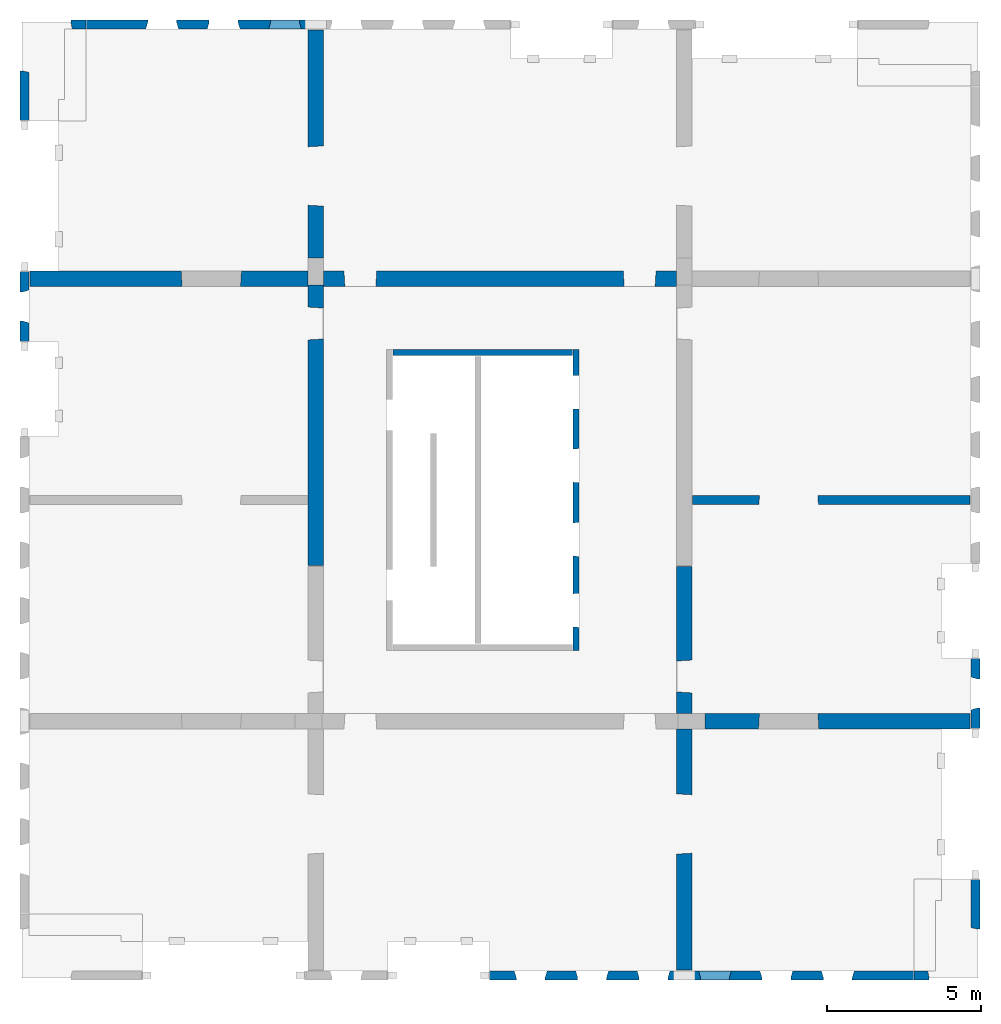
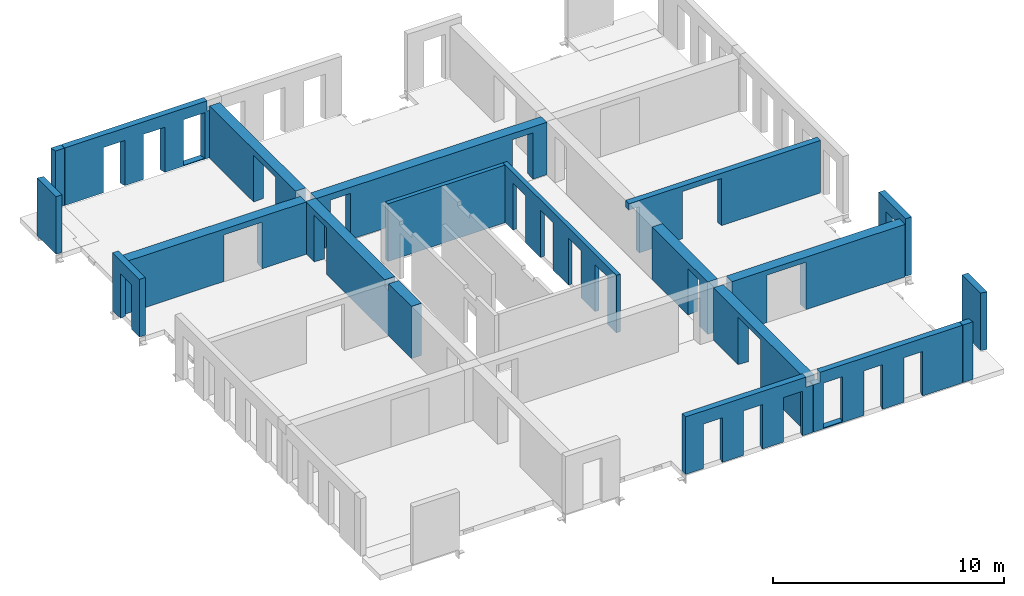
# One storey, part 3 of 4: 19 walls, 33 openings.
"""IFC2X3 building model written with IfcOpenShell, lengths in millimetres."""

from ifc_helpers import new_model, entity, si_unit, converted_unit, derived_unit, direction, frame, frame_2d, origin, origin_2d_with_axis, place, context, subcontext, project, spatial, rectangle, extrude, faceted_brep, material, layer, layer_set, layer_usage, type_object, element, save


model = new_model("IFC2X3")

# Units and contexts
model_context = context("Model", 3, precision=0.01, world=origin(), true_north=direction((6.12303176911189e-17, 1.0)))
body_context = subcontext(model_context, "Body", "Model", "MODEL_VIEW")
ifc_project = project(units=[si_unit("LENGTHUNIT", "METRE", prefix="MILLI"), si_unit("AREAUNIT", "SQUARE_METRE"), si_unit("VOLUMEUNIT", "CUBIC_METRE"), converted_unit("PLANEANGLEUNIT", "DEGREE", entity("IfcRatioMeasure", 0.0174532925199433), si_unit("PLANEANGLEUNIT", "RADIAN"), dimensions=[0, 0, 0, 0, 0, 0, 0]), si_unit("MASSUNIT", "GRAM", prefix="KILO"), derived_unit("MASSDENSITYUNIT", [(si_unit("MASSUNIT", "GRAM", prefix="KILO"), 1), (si_unit("LENGTHUNIT", "METRE"), -3)]), si_unit("TIMEUNIT", "SECOND"), si_unit("FREQUENCYUNIT", "HERTZ"), si_unit("THERMODYNAMICTEMPERATUREUNIT", "DEGREE_CELSIUS"), derived_unit("THERMALTRANSMITTANCEUNIT", [(si_unit("MASSUNIT", "GRAM", prefix="KILO"), 1), (si_unit("THERMODYNAMICTEMPERATUREUNIT", "KELVIN"), -1), (si_unit("TIMEUNIT", "SECOND"), -3)]), derived_unit("VOLUMETRICFLOWRATEUNIT", [(si_unit("LENGTHUNIT", "METRE"), 3), (si_unit("TIMEUNIT", "SECOND"), -1)]), si_unit("ELECTRICCURRENTUNIT", "AMPERE"), si_unit("ELECTRICVOLTAGEUNIT", "VOLT"), si_unit("POWERUNIT", "WATT"), si_unit("FORCEUNIT", "NEWTON", prefix="KILO"), si_unit("ILLUMINANCEUNIT", "LUX"), si_unit("LUMINOUSFLUXUNIT", "LUMEN"), si_unit("LUMINOUSINTENSITYUNIT", "CANDELA"), derived_unit("USERDEFINED", [(si_unit("MASSUNIT", "GRAM", prefix="KILO"), -1), (si_unit("LENGTHUNIT", "METRE"), -2), (si_unit("TIMEUNIT", "SECOND"), 3), (si_unit("LUMINOUSFLUXUNIT", "LUMEN"), 1)]), derived_unit("LINEARVELOCITYUNIT", [(si_unit("LENGTHUNIT", "METRE"), 1), (si_unit("TIMEUNIT", "SECOND"), -1)]), si_unit("PRESSUREUNIT", "PASCAL"), derived_unit("USERDEFINED", [(si_unit("LENGTHUNIT", "METRE"), -2), (si_unit("MASSUNIT", "GRAM", prefix="KILO"), 1), (si_unit("TIMEUNIT", "SECOND"), -2)])], contexts=[model_context])

# Site, building, storey
site_placement = place(None, origin())
site = spatial("IfcSite", under=ifc_project, at=site_placement, Name="Default", CompositionType="ELEMENT")
building_placement = place(site_placement, origin())
building = spatial("IfcBuilding", under=site, at=building_placement, Name="niet gebruiken", CompositionType="ELEMENT")
storey_placement = place(building_placement, frame((0.0, 0.0, 54720.0)))
storey = spatial("IfcBuildingStorey", under=building, at=storey_placement, Name="17 zeventiende verdieping", CompositionType="ELEMENT", Elevation=54720.0)

# Wall, openings
ifc_material = material(Name="NLRS_f2_beton prefab")
ifc_layer_1 = layer(ifc_material, 200.0)
ifc_layer_set_1 = layer_set([ifc_layer_1], Name="Basic Wall:NLRS_22.21_WA_beton prefab d=200_gen")
ifc_layer_usage_1 = layer_usage(ifc_layer_set_1, "AXIS2", "NEGATIVE", 100.0)
wall_type_1 = type_object("IfcWallType", Name="Basic Wall:NLRS_22.21_WA_beton prefab d=200_gen", PredefinedType="STANDARD", material=ifc_layer_set_1)
wall_1_placement = place(storey_placement, frame((144230.0, 22400.0, -50.0), z_axis=(0.0, 0.0, 1.0), x_axis=(0.0, -1.0, 0.0)))
wall_1 = element("IfcWallStandardCase", 1, at=wall_1_placement, inside=storey, type_object=wall_type_1, material=ifc_layer_usage_1, Name="Basic Wall:NLRS_22.21_WA_beton prefab d=200_gen", ObjectType="Basic Wall:NLRS_22.21_WA_beton prefab d=200_gen", context=body_context, shape_type="SweptSolid", body=[
    extrude(rectangle(XDim=9800.0, YDim=199.999999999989, at=frame_2d((4900.0, -3.69482222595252e-13), x_axis=(-1.0, 0.0))), origin(), (0.0, 0.0, 1.0), 3040.0),
])
opening_1_placement = place(wall_1_placement, frame((9047.0, -100.0, 0.0)))
element("IfcOpeningElement", 2, at=opening_1_placement, cuts=wall_1, Name="Basic Wall:NLRS_22.21_WA_beton prefab d=200_gen", ObjectType="Opening", context=body_context, shape_type="Brep", body=[
    faceted_brep([(-1104.0, 200.0, 2502.0), (-1104.0, 200.0, 0.0), (-1092.0, 0.0, 0.0), (-1092.0, 0.0, 2490.0), (0.0, 200.0, 0.0), (-12.0, 0.0, 0.0), (-12.0, 0.0, 2490.0), (0.0, 200.0, 2502.0)], [[[0, 1, 2, 3]], [[1, 4, 5, 2]], [[6, 3, 2, 5]], [[7, 4, 1, 0]], [[7, 0, 3, 6]], [[4, 7, 6, 5]]]),
])
opening_2_placement = place(wall_1_placement, frame((6737.0, -100.0, 0.0)))
element("IfcOpeningElement", 3, at=opening_2_placement, cuts=wall_1, Name="Basic Wall:NLRS_22.21_WA_beton prefab d=200_gen", ObjectType="Opening", context=body_context, shape_type="Brep", body=[
    faceted_brep([(-1104.0, 200.0, 2502.0), (-1104.0, 200.0, 0.0), (-1092.0, 0.0, 0.0), (-1092.0, 0.0, 2490.0), (0.0, 200.0, 0.0), (-12.0, 0.0, 0.0), (-12.0, 0.0, 2490.0), (0.0, 200.0, 2502.0)], [[[0, 1, 2, 3]], [[1, 4, 5, 2]], [[6, 3, 2, 5]], [[7, 4, 1, 0]], [[7, 0, 3, 6]], [[4, 7, 6, 5]]]),
])
opening_3_placement = place(wall_1_placement, frame((4332.0, -100.0, 0.0)))
element("IfcOpeningElement", 4, at=opening_3_placement, cuts=wall_1, Name="Basic Wall:NLRS_22.21_WA_beton prefab d=200_gen", ObjectType="Opening", context=body_context, shape_type="Brep", body=[
    faceted_brep([(-1104.0, 200.0, 2502.0), (-1104.0, 200.0, 0.0), (-1092.0, 0.0, 0.0), (-1092.0, 0.0, 2490.0), (0.0, 200.0, 0.0), (-12.0, 0.0, 0.0), (-12.0, 0.0, 2490.0), (0.0, 200.0, 2502.0)], [[[0, 1, 2, 3]], [[1, 4, 5, 2]], [[6, 3, 2, 5]], [[7, 4, 1, 0]], [[7, 0, 3, 6]], [[4, 7, 6, 5]]]),
])
opening_4_placement = place(wall_1_placement, frame((1942.0, -100.0, 0.0)))
element("IfcOpeningElement", 5, at=opening_4_placement, cuts=wall_1, Name="Basic Wall:NLRS_22.21_WA_beton prefab d=200_gen", ObjectType="Opening", context=body_context, shape_type="Brep", body=[
    faceted_brep([(-1104.0, 200.0, 2502.0), (-1104.0, 200.0, 0.0), (-1092.0, 0.0, 0.0), (-1092.0, 0.0, 2490.0), (0.0, 200.0, 0.0), (-12.0, 0.0, 0.0), (-12.0, 0.0, 2490.0), (0.0, 200.0, 2502.0)], [[[0, 1, 2, 3]], [[1, 4, 5, 2]], [[6, 3, 2, 5]], [[7, 4, 1, 0]], [[7, 0, 3, 6]], [[4, 7, 6, 5]]]),
])

# Wall
ifc_layer_usage_2 = layer_usage(ifc_layer_set_1, "AXIS2", "NEGATIVE", 100.0)
wall_2_placement = place(storey_placement, frame((138270.0, 22300.0, -50.0)))
element("IfcWallStandardCase", 6, at=wall_2_placement, inside=storey, type_object=wall_type_1, material=ifc_layer_usage_2, Name="Basic Wall:NLRS_22.21_WA_beton prefab d=200_gen", ObjectType="Basic Wall:NLRS_22.21_WA_beton prefab d=200_gen", context=body_context, shape_type="SweptSolid", body=[
    extrude(rectangle(XDim=5839.99999999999, YDim=199.999999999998, at=frame_2d((2919.99999999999, -7.60280727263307e-13), x_axis=(-1.0, 0.0))), origin(), (0.0, 0.0, 1.0), 3040.0),
])

# Wall, openings
ifc_layer_2 = layer(ifc_material, 300.0)
ifc_layer_set_2 = layer_set([ifc_layer_2], Name="Basic Wall:NLRS_22.21_WA_beton prefab d=300_gen")
ifc_layer_usage_3 = layer_usage(ifc_layer_set_2, "AXIS2", "NEGATIVE", 150.0)
wall_type_2 = type_object("IfcWallType", Name="Basic Wall:NLRS_22.21_WA_beton prefab d=300_gen", PredefinedType="STANDARD", material=ifc_layer_set_2)
wall_3_placement = place(storey_placement, frame((157060.0, 17500.0, -70.0), z_axis=(0.0, 0.0, 1.0), x_axis=(-1.0, 0.0, 0.0)))
wall_3 = element("IfcWallStandardCase", 7, at=wall_3_placement, inside=storey, type_object=wall_type_2, material=ifc_layer_usage_3, Name="Basic Wall:NLRS_22.21_WA_beton prefab d=300_gen", ObjectType="Basic Wall:NLRS_22.21_WA_beton prefab d=300_gen", context=body_context, shape_type="SweptSolid", body=[
    extrude(rectangle(XDim=9559.9999999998, YDim=300.000000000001, at=frame_2d((4779.9999999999, -7.53175299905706e-13), x_axis=(-1.0, 0.0))), origin(), (0.0, 0.0, 1.0), 2769.99999999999),
])
opening_5_placement = place(wall_3_placement, frame((6878.0, 150.0, 0.0)))
element("IfcOpeningElement", 8, at=opening_5_placement, cuts=wall_3, Name="Basic Wall:NLRS_22.21_WA_beton prefab d=300_gen", ObjectType="Opening", context=body_context, shape_type="Brep", body=[
    faceted_brep([(-18.0, -300.0, 2470.0), (-1918.0, -300.0, 2470.0), (-1918.0, -300.0, 0.0), (-18.0, -300.0, 0.0), (0.0, 0.0, 2488.0), (0.0, 0.0, 0.0), (-1936.0, 0.0, 0.0), (-1936.0, 0.0, 2488.0)], [[[0, 1, 2, 3]], [[4, 5, 6, 7]], [[4, 7, 1, 0]], [[7, 6, 2, 1]], [[6, 5, 3, 2]], [[5, 4, 0, 3]]]),
])
opening_6_placement = place(wall_3_placement, origin())
element("IfcOpeningElement", 9, at=opening_6_placement, cuts=wall_3, Name="Basic Wall:NLRS_22.21_WA_beton prefab d=300_gen", ObjectType="Opening", context=body_context, shape_type="SweptSolid", body=[
    extrude(rectangle(XDim=2439.99999999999, YDim=520.000000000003, at=frame_2d((8.64019966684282e-12, 4.32009983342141e-12), x_axis=(0.0, 1.0))), frame((9300.0, 150.0, 1220.0), z_axis=(0.0, -1.0, 0.0), x_axis=(1.0, 0.0, 0.0)), (0.0, 0.0, 1.0), 300.0),
])

ifc_layer_3 = layer(ifc_material, 500.0)
ifc_layer_set_3 = layer_set([ifc_layer_3], Name="Basic Wall:NLRS_22.21_WA_beton prefab d=500_gen")
ifc_layer_usage_4 = layer_usage(ifc_layer_set_3, "AXIS2", "NEGATIVE", 250.0)
wall_type_3 = type_object("IfcWallType", Name="Basic Wall:NLRS_22.21_WA_beton prefab d=500_gen", PredefinedType="STANDARD", material=ifc_layer_set_3)
wall_4_placement = place(storey_placement, frame((136000.003540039, 24700.0, -60.0)))
wall_4 = element("IfcWallStandardCase", 10, at=wall_4_placement, inside=storey, type_object=wall_type_3, material=ifc_layer_usage_4, Name="Basic Wall:NLRS_22.21_WA_beton prefab d=500_gen", ObjectType="Basic Wall:NLRS_22.21_WA_beton prefab d=500_gen", context=body_context, shape_type="SweptSolid", body=[
    extrude(rectangle(XDim=11499.9964599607, YDim=499.999999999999, at=frame_2d((5749.99822998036, 0.0), x_axis=(-1.0, 0.0))), origin(), (0.0, 0.0, 1.0), 2760.00000000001),
])
opening_7_placement = place(wall_4_placement, frame((669.996459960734, -250.0, -10.0)))
element("IfcOpeningElement", 11, at=opening_7_placement, cuts=wall_4, Name="Basic Wall:NLRS_22.21_WA_beton prefab d=500_gen", ObjectType="Opening", context=body_context, shape_type="Brep", body=[
    faceted_brep([(1066.0, 500.0, 2478.0), (1036.0, 0.0, 2448.0), (1036.0, 0.0, 0.0), (1066.0, 500.0, 0.0), (30.0, 0.0, 0.0), (0.0, 500.0, 0.0), (30.0, 0.0, 2448.0), (0.0, 500.0, 2478.0)], [[[0, 1, 2, 3]], [[3, 2, 4, 5]], [[6, 4, 2, 1]], [[7, 0, 3, 5]], [[7, 6, 1, 0]], [[5, 4, 6, 7]]]),
])
opening_8_placement = place(wall_4_placement, frame((9763.99645996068, -250.0, -10.0)))
element("IfcOpeningElement", 12, at=opening_8_placement, cuts=wall_4, Name="Basic Wall:NLRS_22.21_WA_beton prefab d=500_gen", ObjectType="Opening", context=body_context, shape_type="Brep", body=[
    faceted_brep([(30.0, 0.0, 2448.0), (30.0, 0.0, 0.0), (1036.0, 0.0, 0.0), (1036.0, 0.0, 2448.0), (0.0, 500.0, 2478.0), (1066.0, 500.0, 2478.0), (1066.0, 500.0, 0.0), (0.0, 500.0, 0.0)], [[[0, 1, 2, 3]], [[4, 5, 6, 7]], [[4, 0, 3, 5]], [[5, 3, 2, 6]], [[6, 2, 1, 7]], [[7, 1, 0, 4]]]),
])

# Wall, opening
ifc_layer_usage_5 = layer_usage(ifc_layer_set_3, "AXIS2", "NEGATIVE", 250.0)
wall_5_placement = place(storey_placement, frame((147750.0, 10050.0, -70.0), z_axis=(0.0, 0.0, 1.0), x_axis=(0.0, -1.0, 0.0)))
wall_5 = element("IfcWallStandardCase", 13, at=wall_5_placement, inside=storey, type_object=wall_type_3, material=ifc_layer_usage_5, Name="Basic Wall:NLRS_22.21_WA_beton prefab d=500_gen", ObjectType="Basic Wall:NLRS_22.21_WA_beton prefab d=500_gen", context=body_context, shape_type="SweptSolid", body=[
    extrude(rectangle(XDim=7859.99999999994, YDim=499.99999999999, at=frame_2d((3929.99999999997, 8.5265128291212e-14), x_axis=(-1.0, 0.0))), origin(), (0.0, 0.0, 1.0), 2769.99999999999),
])
opening_9_placement = place(wall_5_placement, frame((4080.0, -250.0, 0.0)))
element("IfcOpeningElement", 14, at=opening_9_placement, cuts=wall_5, Name="Basic Wall:NLRS_22.21_WA_beton prefab d=500_gen", ObjectType="Opening", context=body_context, shape_type="Brep", body=[
    faceted_brep([(-30.0, 500.0, 2470.0), (-30.0, 500.0, 0.0), (-1930.0, 500.0, 0.0), (-1930.0, 500.0, 2470.0), (0.0, 0.0, 2500.0), (-1960.0, 0.0, 2500.0), (-1960.0, 0.0, 0.0), (0.0, 0.0, 0.0)], [[[0, 1, 2, 3]], [[4, 5, 6, 7]], [[4, 0, 3, 5]], [[5, 3, 2, 6]], [[6, 2, 1, 7]], [[7, 1, 0, 4]]]),
])

ifc_layer_usage_6 = layer_usage(ifc_layer_set_3, "AXIS2", "NEGATIVE", 250.0)
wall_6_placement = place(storey_placement, frame((135500.003540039, 24700.0, -60.0), z_axis=(0.0, 0.0, 1.0), x_axis=(-1.0, 0.0, 0.0)))
wall_6 = element("IfcWallStandardCase", 15, at=wall_6_placement, inside=storey, type_object=wall_type_3, material=ifc_layer_usage_6, Name="Basic Wall:NLRS_22.21_WA_beton prefab d=500_gen", ObjectType="Basic Wall:NLRS_22.21_WA_beton prefab d=500_gen", context=body_context, shape_type="SweptSolid", body=[
    extrude(rectangle(XDim=9060.00354003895, YDim=499.999999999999, at=frame_2d((4530.00177001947, 7.24753590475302e-13), x_axis=(-1.0, 0.0))), origin(), (0.0, 0.0, 1.0), 2760.00000000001),
])
opening_10_placement = place(wall_6_placement, frame((4130.00354003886, 250.0, -10.0)))
element("IfcOpeningElement", 16, at=opening_10_placement, cuts=wall_6, Name="Basic Wall:NLRS_22.21_WA_beton prefab d=500_gen", ObjectType="Opening", context=body_context, shape_type="Brep", body=[
    faceted_brep([(-1930.0, 0.0, 2470.0), (-30.0, 0.0, 2470.0), (-30.0, 0.0, 0.0), (-1930.0, 0.0, 0.0), (-1960.0, -500.0, 2500.0), (-1960.0, -500.0, 0.0), (0.0, -500.0, 0.0), (0.0, -500.0, 2500.0)], [[[0, 1, 2, 3]], [[4, 5, 6, 7]], [[4, 7, 1, 0]], [[7, 6, 2, 1]], [[6, 5, 3, 2]], [[5, 4, 0, 3]]]),
])

ifc_layer_usage_7 = layer_usage(ifc_layer_set_3, "AXIS2", "NEGATIVE", 250.0)
wall_7_placement = place(storey_placement, frame((148430.0, 10300.0, -70.0)))
wall_7 = element("IfcWallStandardCase", 17, at=wall_7_placement, inside=storey, type_object=wall_type_3, material=ifc_layer_usage_7, Name="Basic Wall:NLRS_22.21_WA_beton prefab d=500_gen", ObjectType="Basic Wall:NLRS_22.21_WA_beton prefab d=500_gen", context=body_context, shape_type="SweptSolid", body=[
    extrude(rectangle(XDim=8630.00000000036, YDim=499.999999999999, at=frame_2d((4315.00000000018, 2.70006239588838e-13), x_axis=(-1.0, 0.0))), origin(), (0.0, 0.0, 1.0), 2769.99999999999),
])
opening_11_placement = place(wall_7_placement, frame((1740.0, -250.0, 0.0)))
element("IfcOpeningElement", 18, at=opening_11_placement, cuts=wall_7, Name="Basic Wall:NLRS_22.21_WA_beton prefab d=500_gen", ObjectType="Opening", context=body_context, shape_type="Brep", body=[
    faceted_brep([(30.0, 500.0, 2470.0), (1930.0, 500.0, 2470.0), (1930.0, 500.0, 0.0), (30.0, 500.0, 0.0), (0.0, 0.0, 2500.0), (0.0, 0.0, 0.0), (1960.0, 0.0, 0.0), (1960.0, 0.0, 2500.0)], [[[0, 1, 2, 3]], [[4, 5, 6, 7]], [[4, 7, 1, 0]], [[7, 6, 2, 1]], [[6, 5, 3, 2]], [[5, 4, 0, 3]]]),
])

ifc_layer_usage_8 = layer_usage(ifc_layer_set_3, "AXIS2", "NEGATIVE", 250.0)
wall_8_placement = place(storey_placement, frame((135750.0, 25380.0, -70.0), z_axis=(0.0, 0.0, 1.0), x_axis=(0.0, 1.0, 0.0)))
wall_8 = element("IfcWallStandardCase", 19, at=wall_8_placement, inside=storey, type_object=wall_type_3, material=ifc_layer_usage_8, Name="Basic Wall:NLRS_22.21_WA_beton prefab d=500_gen", ObjectType="Basic Wall:NLRS_22.21_WA_beton prefab d=500_gen", context=body_context, shape_type="SweptSolid", body=[
    extrude(rectangle(XDim=7429.99999999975, YDim=499.99999999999, at=frame_2d((3714.99999999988, -3.65218966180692e-12), x_axis=(-1.0, 0.0))), origin(), (0.0, 0.0, 1.0), 2769.99999999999),
])
opening_12_placement = place(wall_8_placement, frame((1690.0, 250.0, 0.0)))
element("IfcOpeningElement", 20, at=opening_12_placement, cuts=wall_8, Name="Basic Wall:NLRS_22.21_WA_beton prefab d=500_gen", ObjectType="Opening", context=body_context, shape_type="Brep", body=[
    faceted_brep([(1930.0, 0.0, 2470.0), (1930.0, 0.0, 0.0), (30.0, 0.0, 0.0), (30.0, 0.0, 2470.0), (1960.0, -500.0, 2500.0), (0.0, -500.0, 2500.0), (0.0, -500.0, 0.0), (1960.0, -500.0, 0.0)], [[[0, 1, 2, 3]], [[4, 5, 6, 7]], [[4, 0, 3, 5]], [[5, 3, 2, 6]], [[6, 2, 1, 7]], [[7, 1, 0, 4]]]),
])

ifc_layer_usage_9 = layer_usage(ifc_layer_set_3, "AXIS2", "NEGATIVE", 250.0)
wall_9_placement = place(storey_placement, frame((147750.0, 15340.0, -70.0), z_axis=(0.0, 0.0, 1.0), x_axis=(0.0, -1.0, 0.0)))
wall_9 = element("IfcWallStandardCase", 21, at=wall_9_placement, inside=storey, type_object=wall_type_3, material=ifc_layer_usage_9, Name="Basic Wall:NLRS_22.21_WA_beton prefab d=500_gen", ObjectType="Basic Wall:NLRS_22.21_WA_beton prefab d=500_gen", context=body_context, shape_type="SweptSolid", body=[
    extrude(rectangle(XDim=4789.99999999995, YDim=499.99999999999, at=frame_2d((2394.99999999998, 0.0), x_axis=(-1.0, 0.0))), origin(), (0.0, 0.0, 1.0), 2770.00000000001),
])
opening_13_placement = place(wall_9_placement, frame((4120.0, -250.0, 0.0)))
element("IfcOpeningElement", 22, at=opening_13_placement, cuts=wall_9, Name="Basic Wall:NLRS_22.21_WA_beton prefab d=500_gen", ObjectType="Opening", context=body_context, shape_type="Brep", body=[
    faceted_brep([(-1066.0, 500.0, 2478.0), (-1066.0, 500.0, 0.0), (-1036.0, 0.0, 0.0), (-1036.0, 0.0, 2448.0), (0.0, 500.0, 0.0), (-30.0, 0.0, 0.0), (-30.0, 0.0, 2448.0), (0.0, 500.0, 2478.0)], [[[0, 1, 2, 3]], [[1, 4, 5, 2]], [[6, 3, 2, 5]], [[7, 4, 1, 0]], [[7, 0, 3, 6]], [[4, 7, 6, 5]]]),
])

# Wall, openings
ifc_layer_usage_10 = layer_usage(ifc_layer_set_3, "AXIS2", "NEGATIVE", 250.0)
wall_10_placement = place(storey_placement, frame((135750.0, 24500.0, -60.0), z_axis=(0.0, 0.0, 1.0), x_axis=(0.0, -1.0, 0.0)))
wall_10 = element("IfcWallStandardCase", 23, at=wall_10_placement, inside=storey, type_object=wall_type_3, material=ifc_layer_usage_10, Name="Basic Wall:NLRS_22.21_WA_beton prefab d=500_gen", ObjectType="Basic Wall:NLRS_22.21_WA_beton prefab d=500_gen", context=body_context, shape_type="SweptSolid", body=[
    extrude(rectangle(XDim=9139.99999999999, YDim=499.99999999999, at=frame_2d((4570.0, 5.6843418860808e-14), x_axis=(-1.0, 0.0))), origin(), (0.0, 0.0, 1.0), 2760.00000000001),
])
opening_14_placement = place(wall_10_placement, frame((1786.0, -250.0, -10.0)))
element("IfcOpeningElement", 24, at=opening_14_placement, cuts=wall_10, Name="Basic Wall:NLRS_22.21_WA_beton prefab d=500_gen", ObjectType="Opening", context=body_context, shape_type="Brep", body=[
    faceted_brep([(-1066.0, 0.0, 2478.0), (-1036.0, 500.0, 2448.0), (-1036.0, 500.0, 0.0), (-1066.0, 0.0, 0.0), (-30.0, 500.0, 0.0), (0.0, 0.0, 0.0), (-30.0, 500.0, 2448.0), (0.0, 0.0, 2478.0)], [[[0, 1, 2, 3]], [[3, 2, 4, 5]], [[6, 4, 2, 1]], [[7, 0, 3, 5]], [[7, 6, 1, 0]], [[5, 4, 6, 7]]]),
])
opening_15_placement = place(wall_10_placement, origin())
element("IfcOpeningElement", 25, at=opening_15_placement, cuts=wall_10, Name="Basic Wall:NLRS_22.21_WA_beton prefab d=500_gen", ObjectType="Opening", context=body_context, shape_type="SweptSolid", body=[
    extrude(rectangle(XDim=349.99999999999, YDim=340.000000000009, at=frame_2d((0.0, 0.0), x_axis=(0.0, 1.0))), frame((7000.0, 250.0, 2585.0), z_axis=(0.0, -1.0, 0.0), x_axis=(-1.0, 0.0, 0.0)), (0.0, 0.0, 1.0), 500.0),
])

# Wall, opening
ifc_layer_4 = layer(ifc_material, 300.0)
ifc_layer_set_4 = layer_set([ifc_layer_4], Name="Basic Wall:NLRS_21.21_WA_beton prefab d=300/320_gen")
ifc_layer_usage_11 = layer_usage(ifc_layer_set_4, "AXIS2", "NEGATIVE", 150.0)
wall_type_4 = type_object("IfcWallType", Name="Basic Wall:NLRS_21.21_WA_beton prefab d=300/320_gen", PredefinedType="STANDARD", material=ifc_layer_set_4)
wall_11_placement = place(storey_placement, frame((157230.0, 12360.0, -50.0), z_axis=(0.0, 0.0, 1.0), x_axis=(0.0, -1.0, 0.0)))
wall_11 = element("IfcWallStandardCase", 26, at=wall_11_placement, inside=storey, type_object=wall_type_4, material=ifc_layer_usage_11, Name="Basic Wall:NLRS_21.21_WA_beton prefab d=300/320_gen", ObjectType="Basic Wall:NLRS_21.21_WA_beton prefab d=300/320_gen", context=body_context, shape_type="SweptSolid", body=[
    extrude(rectangle(XDim=2320.00000000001, YDim=300.000000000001, at=frame_2d((1160.0, -8.38440428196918e-12), x_axis=(-1.0, 0.0))), origin(), (0.0, 0.0, 1.0), 3040.0),
])
opening_16_placement = place(wall_11_placement, frame((1695.0, -150.0, -20.0)))
element("IfcOpeningElement", 27, at=opening_16_placement, cuts=wall_11, Name="Basic Wall:NLRS_21.21_WA_beton prefab d=300/320_gen", ObjectType="Opening", context=body_context, shape_type="Brep", body=[
    faceted_brep([(-1070.0, 0.0, 2405.0), (-1070.0, 0.0, 0.0), (0.0, 0.0, 0.0), (0.0, 0.0, 2405.0), (-65.0, 219.0, 2370.0), (-1005.0, 219.0, 2370.0), (-65.0, 219.0, 0.0), (-1005.0, 219.0, 0.0), (-1005.0, 300.0, 0.0), (-65.0, 300.0, 0.0), (-1005.0, 300.0, 2370.0), (-65.0, 300.0, 2370.0)], [[[0, 1, 2, 3]], [[3, 4, 5, 0]], [[2, 6, 4, 3]], [[1, 7, 8, 9, 6, 2]], [[0, 5, 7, 1]], [[10, 11, 9, 8]], [[10, 5, 4, 11]], [[11, 4, 6, 9]], [[8, 7, 5, 10]]]),
])

ifc_layer_usage_12 = layer_usage(ifc_layer_set_4, "AXIS2", "NEGATIVE", 150.0)
wall_12_placement = place(storey_placement, frame((126270.0, 22640.0, -50.0), z_axis=(0.0, 0.0, 1.0), x_axis=(0.0, 1.0, 0.0)))
wall_12 = element("IfcWallStandardCase", 28, at=wall_12_placement, inside=storey, type_object=wall_type_4, material=ifc_layer_usage_12, Name="Basic Wall:NLRS_21.21_WA_beton prefab d=300/320_gen", ObjectType="Basic Wall:NLRS_21.21_WA_beton prefab d=300/320_gen", context=body_context, shape_type="SweptSolid", body=[
    extrude(rectangle(XDim=2320.0, YDim=300.000000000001, at=frame_2d((1160.0, -3.60955709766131e-12), x_axis=(-1.0, 0.0))), origin(), (0.0, 0.0, 1.0), 3040.0),
])
opening_17_placement = place(wall_12_placement, frame((625.0, 150.0, -20.0)))
element("IfcOpeningElement", 29, at=opening_17_placement, cuts=wall_12, Name="Basic Wall:NLRS_21.21_WA_beton prefab d=300/320_gen", ObjectType="Opening", context=body_context, shape_type="Brep", body=[
    faceted_brep([(0.0, -300.0, 2405.0), (0.0, -300.0, 0.0), (1070.0, -300.0, 0.0), (1070.0, -300.0, 2405.0), (1005.0, -81.0, 2370.0), (65.0, -81.0, 2370.0), (1005.0, -81.0, 0.0), (65.0, -81.0, 0.0), (65.0, 0.0, 0.0), (1005.0, 0.0, 0.0), (65.0, 0.0, 2370.0), (1005.0, 0.0, 2370.0)], [[[0, 1, 2, 3]], [[3, 4, 5, 0]], [[2, 6, 4, 3]], [[1, 7, 8, 9, 6, 2]], [[0, 5, 7, 1]], [[10, 11, 9, 8]], [[10, 5, 4, 11]], [[11, 4, 6, 9]], [[8, 7, 5, 10]]]),
])

# Wall, openings
ifc_layer_usage_13 = layer_usage(ifc_layer_set_4, "AXIS2", "NEGATIVE", 150.0)
wall_13_placement = place(storey_placement, frame((128290.0, 32980.0, -50.0)))
wall_13 = element("IfcWallStandardCase", 30, at=wall_13_placement, inside=storey, type_object=wall_type_4, material=ifc_layer_usage_13, Name="Basic Wall:NLRS_21.21_WA_beton prefab d=300/320_gen", ObjectType="Basic Wall:NLRS_21.21_WA_beton prefab d=300/320_gen", context=body_context, shape_type="SweptSolid", body=[
    extrude(rectangle(XDim=7449.9999999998, YDim=300.000000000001, at=frame_2d((3724.9999999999, 0.0), x_axis=(-1.0, 0.0))), origin(), (0.0, 0.0, 1.0), 3040.0),
])
opening_18_placement = place(wall_13_placement, frame((3925.0, -150.0, -20.0)))
element("IfcOpeningElement", 31, at=opening_18_placement, cuts=wall_13, Name="Basic Wall:NLRS_21.21_WA_beton prefab d=300/320_gen", ObjectType="Opening", context=body_context, shape_type="Brep", body=[
    faceted_brep([(1070.0, 0.0, 2405.0), (0.0, 0.0, 2405.0), (0.0, 0.0, 0.0), (1070.0, 0.0, 0.0), (1005.0, 219.0, 2370.0), (65.0, 219.0, 2370.0), (65.0, 219.0, 0.0), (65.0, 300.0, 0.0), (1005.0, 300.0, 0.0), (1005.0, 219.0, 0.0), (1005.0, 300.0, 2370.0), (65.0, 300.0, 2370.0)], [[[0, 1, 2, 3]], [[1, 0, 4, 5]], [[2, 1, 5, 6]], [[3, 2, 6, 7, 8, 9]], [[0, 3, 9, 4]], [[10, 8, 7, 11]], [[10, 11, 5, 4]], [[11, 7, 6, 5]], [[8, 10, 4, 9]]]),
])
opening_19_placement = place(wall_13_placement, frame((1925.0, -150.0, -20.0)))
element("IfcOpeningElement", 32, at=opening_19_placement, cuts=wall_13, Name="Basic Wall:NLRS_21.21_WA_beton prefab d=300/320_gen", ObjectType="Opening", context=body_context, shape_type="Brep", body=[
    faceted_brep([(1070.0, 0.0, 2405.0), (0.0, 0.0, 2405.0), (0.0, 0.0, 0.0), (1070.0, 0.0, 0.0), (1005.0, 219.0, 2370.0), (65.0, 219.0, 2370.0), (65.0, 219.0, 0.0), (65.0, 300.0, 0.0), (1005.0, 300.0, 0.0), (1005.0, 219.0, 0.0), (1005.0, 300.0, 2370.0), (65.0, 300.0, 2370.0)], [[[0, 1, 2, 3]], [[1, 0, 4, 5]], [[2, 1, 5, 6]], [[3, 2, 6, 7, 8, 9]], [[0, 3, 9, 4]], [[10, 8, 7, 11]], [[10, 11, 5, 4]], [[11, 7, 6, 5]], [[8, 10, 4, 9]]]),
])
opening_20_placement = place(wall_13_placement, frame((5925.0, -150.0, 50.0)))
element("IfcOpeningElement", 33, at=opening_20_placement, cuts=wall_13, Name="Basic Wall:NLRS_21.21_WA_beton prefab d=300/320_gen", ObjectType="Opening", context=body_context, shape_type="Brep", body=[
    faceted_brep([(1070.0, 0.0, 2405.0), (0.0, 0.0, 2405.0), (0.0, 0.0, 0.0), (1070.0, 0.0, 0.0), (1005.0, 219.0, 2370.0), (65.0, 219.0, 2370.0), (65.0, 219.0, 0.0), (65.0, 300.0, 0.0), (1005.0, 300.0, 0.0), (1005.0, 219.0, 0.0), (1005.0, 300.0, 2370.0), (65.0, 300.0, 2370.0)], [[[0, 1, 2, 3]], [[1, 0, 4, 5]], [[2, 1, 5, 6]], [[3, 2, 6, 7, 8, 9]], [[0, 3, 9, 4]], [[10, 8, 7, 11]], [[10, 11, 5, 4]], [[11, 7, 6, 5]], [[8, 10, 4, 9]]]),
])
opening_21_placement = place(wall_13_placement, origin())
element("IfcOpeningElement", 34, at=opening_21_placement, cuts=wall_13, Name="Basic Wall:NLRS_21.21_WA_beton prefab d=300/320_gen", ObjectType="Opening", context=body_context, shape_type="SweptSolid", body=[
    extrude(rectangle(XDim=534.999999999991, YDim=344.999999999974, at=frame_2d((-4.32009983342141e-12, 0.0), x_axis=(1.0, 0.0))), frame((7277.49999999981, 150.0, 2772.50000000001), z_axis=(0.0, -1.0, 0.0), x_axis=(0.0, 0.0, 1.0)), (0.0, 0.0, 1.0), 300.0),
])

# Wall, opening
ifc_layer_usage_14 = layer_usage(ifc_layer_set_4, "AXIS2", "NEGATIVE", 150.0)
wall_14_placement = place(storey_placement, frame((127780.0, 32980.0, -50.0)))
wall_14 = element("IfcWallStandardCase", 35, at=wall_14_placement, inside=storey, type_object=wall_type_4, material=ifc_layer_usage_14, Name="Basic Wall:NLRS_21.21_WA_beton prefab d=300/320_gen", ObjectType="Basic Wall:NLRS_21.21_WA_beton prefab d=300/320_gen", context=body_context, shape_type="SweptSolid", body=[
    extrude(rectangle(XDim=489.999999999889, YDim=300.000000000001, at=frame_2d((244.999999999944, -6.67910171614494e-13), x_axis=(-1.0, 0.0))), origin(), (0.0, 0.0, 1.0), 3040.0),
])
opening_22_placement = place(wall_14_placement, frame((0.0, -250.0, 0.0)))
element("IfcOpeningElement", 36, at=opening_22_placement, cuts=wall_14, Name="Basic Wall:NLRS_21.21_WA_beton prefab d=300/320_gen", ObjectType="Opening", context=body_context, shape_type="Brep", body=[
    faceted_brep([(0.0, 0.0, 3040.0), (65.0, 0.0, 3040.0), (0.0, 319.0, 3040.0), (0.0, 0.0, 0.0), (0.0, 319.0, 0.0), (65.0, 0.0, 0.0)], [[[0, 1, 2]], [[3, 4, 5]], [[1, 0, 3, 5]], [[0, 2, 4, 3]], [[2, 1, 5, 4]]]),
])

ifc_layer_usage_15 = layer_usage(ifc_layer_set_4, "AXIS2", "NEGATIVE", 150.0)
wall_15_placement = place(storey_placement, frame((126270.0, 29840.0, -50.0), z_axis=(0.0, 0.0, 1.0), x_axis=(0.0, 1.0, 0.0)))
wall_15 = element("IfcWallStandardCase", 37, at=wall_15_placement, inside=storey, type_object=wall_type_4, material=ifc_layer_usage_15, Name="Basic Wall:NLRS_21.21_WA_beton prefab d=300/320_gen", ObjectType="Basic Wall:NLRS_21.21_WA_beton prefab d=300/320_gen", context=body_context, shape_type="SweptSolid", body=[
    extrude(rectangle(XDim=1629.99999999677, YDim=300.000000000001, at=frame_2d((814.999999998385, 8.95283847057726e-13), x_axis=(-1.0, 0.0))), origin(), (0.0, 0.0, 1.0), 3040.0),
])
opening_23_placement = place(wall_15_placement, frame((1565.0, 69.0, 0.0)))
element("IfcOpeningElement", 38, at=opening_23_placement, cuts=wall_15, Name="Basic Wall:NLRS_21.21_WA_beton prefab d=300/320_gen", ObjectType="Opening", context=body_context, shape_type="Brep", body=[
    faceted_brep([(65.0, -319.0, 3040.0), (65.0, 0.0, 3040.0), (0.0, -319.0, 3040.0), (65.0, -319.0, 0.0), (0.0, -319.0, 0.0), (65.0, 0.0, 0.0)], [[[0, 1, 2]], [[3, 4, 5]], [[2, 4, 3, 0]], [[0, 3, 5, 1]], [[1, 5, 4, 2]]]),
])

ifc_layer_usage_16 = layer_usage(ifc_layer_set_4, "AXIS2", "NEGATIVE", 150.0)
wall_16_placement = place(storey_placement, frame((155720.0, 2020.0, -50.0), z_axis=(0.0, 0.0, 1.0), x_axis=(-1.0, 0.0, 0.0)))
wall_16 = element("IfcWallStandardCase", 39, at=wall_16_placement, inside=storey, type_object=wall_type_4, material=ifc_layer_usage_16, Name="Basic Wall:NLRS_21.21_WA_beton prefab d=300/320_gen", ObjectType="Basic Wall:NLRS_21.21_WA_beton prefab d=300/320_gen", context=body_context, shape_type="SweptSolid", body=[
    extrude(rectangle(XDim=489.999999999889, YDim=300.0, at=frame_2d((244.999999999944, 4.2632564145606e-14), x_axis=(-1.0, 0.0))), origin(), (0.0, 0.0, 1.0), 3040.0),
])
opening_24_placement = place(wall_16_placement, frame((65.0, 69.0, 0.0)))
element("IfcOpeningElement", 40, at=opening_24_placement, cuts=wall_16, Name="Basic Wall:NLRS_21.21_WA_beton prefab d=300/320_gen", ObjectType="Opening", context=body_context, shape_type="Brep", body=[
    faceted_brep([(-65.0, -319.0, 3040.0), (0.0, -319.0, 3040.0), (-65.0, 0.0, 3040.0), (-65.0, -319.0, 0.0), (-65.0, 0.0, 0.0), (0.0, -319.0, 0.0)], [[[0, 1, 2]], [[3, 4, 5]], [[1, 0, 3, 5]], [[0, 2, 4, 3]], [[2, 1, 5, 4]]]),
])

ifc_layer_usage_17 = layer_usage(ifc_layer_set_4, "AXIS2", "NEGATIVE", 150.0)
wall_17_placement = place(storey_placement, frame((157230.0, 5160.0, -50.0), z_axis=(0.0, 0.0, 1.0), x_axis=(0.0, -1.0, 0.0)))
wall_17 = element("IfcWallStandardCase", 41, at=wall_17_placement, inside=storey, type_object=wall_type_4, material=ifc_layer_usage_17, Name="Basic Wall:NLRS_21.21_WA_beton prefab d=300/320_gen", ObjectType="Basic Wall:NLRS_21.21_WA_beton prefab d=300/320_gen", context=body_context, shape_type="SweptSolid", body=[
    extrude(rectangle(XDim=1629.99999999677, YDim=300.000000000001, at=frame_2d((814.999999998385, 4.76063632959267e-12), x_axis=(-1.0, 0.0))), origin(), (0.0, 0.0, 1.0), 3040.0),
])
opening_25_placement = place(wall_17_placement, frame((1630.0, -250.0, 0.0)))
element("IfcOpeningElement", 42, at=opening_25_placement, cuts=wall_17, Name="Basic Wall:NLRS_21.21_WA_beton prefab d=300/320_gen", ObjectType="Opening", context=body_context, shape_type="Brep", body=[
    faceted_brep([(0.0, 0.0, 3040.0), (0.0, 319.0, 3040.0), (-65.0, 0.0, 3040.0), (0.0, 0.0, 0.0), (-65.0, 0.0, 0.0), (0.0, 319.0, 0.0)], [[[0, 1, 2]], [[3, 4, 5]], [[2, 4, 3, 0]], [[0, 3, 5, 1]], [[1, 5, 4, 2]]]),
])

# Wall, openings
ifc_layer_usage_18 = layer_usage(ifc_layer_set_4, "AXIS2", "NEGATIVE", 150.0)
wall_18_placement = place(storey_placement, frame((155210.0, 2020.0, -50.0), z_axis=(0.0, 0.0, 1.0), x_axis=(-1.0, 0.0, 0.0)))
wall_18 = element("IfcWallStandardCase", 43, at=wall_18_placement, inside=storey, type_object=wall_type_4, material=ifc_layer_usage_18, Name="Basic Wall:NLRS_21.21_WA_beton prefab d=300/320_gen", ObjectType="Basic Wall:NLRS_21.21_WA_beton prefab d=300/320_gen", context=body_context, shape_type="SweptSolid", body=[
    extrude(rectangle(XDim=7449.99999999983, YDim=300.0, at=frame_2d((3724.99999999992, 5.6843418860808e-14), x_axis=(-1.0, 0.0))), origin(), (0.0, 0.0, 1.0), 3040.0),
])
opening_26_placement = place(wall_18_placement, frame((4995.0, 150.0, -20.0)))
element("IfcOpeningElement", 44, at=opening_26_placement, cuts=wall_18, Name="Basic Wall:NLRS_21.21_WA_beton prefab d=300/320_gen", ObjectType="Opening", context=body_context, shape_type="Brep", body=[
    faceted_brep([(0.0, -300.0, 2405.0), (-1070.0, -300.0, 2405.0), (-1070.0, -300.0, 0.0), (0.0, -300.0, 0.0), (-65.0, -81.0, 2370.0), (-1005.0, -81.0, 2370.0), (-1005.0, -81.0, 0.0), (-1005.0, 0.0, 0.0), (-65.0, 0.0, 0.0), (-65.0, -81.0, 0.0), (-65.0, 0.0, 2370.0), (-1005.0, 0.0, 2370.0)], [[[0, 1, 2, 3]], [[1, 0, 4, 5]], [[2, 1, 5, 6]], [[3, 2, 6, 7, 8, 9]], [[0, 3, 9, 4]], [[10, 8, 7, 11]], [[10, 11, 5, 4]], [[11, 7, 6, 5]], [[8, 10, 4, 9]]]),
])
opening_27_placement = place(wall_18_placement, frame((2995.0, 150.0, -20.0)))
element("IfcOpeningElement", 45, at=opening_27_placement, cuts=wall_18, Name="Basic Wall:NLRS_21.21_WA_beton prefab d=300/320_gen", ObjectType="Opening", context=body_context, shape_type="Brep", body=[
    faceted_brep([(0.0, -300.0, 2405.0), (-1070.0, -300.0, 2405.0), (-1070.0, -300.0, 0.0), (0.0, -300.0, 0.0), (-65.0, -81.0, 2370.0), (-1005.0, -81.0, 2370.0), (-1005.0, -81.0, 0.0), (-1005.0, 0.0, 0.0), (-65.0, 0.0, 0.0), (-65.0, -81.0, 0.0), (-65.0, 0.0, 2370.0), (-1005.0, 0.0, 2370.0)], [[[0, 1, 2, 3]], [[1, 0, 4, 5]], [[2, 1, 5, 6]], [[3, 2, 6, 7, 8, 9]], [[0, 3, 9, 4]], [[10, 8, 7, 11]], [[10, 11, 5, 4]], [[11, 7, 6, 5]], [[8, 10, 4, 9]]]),
])
opening_28_placement = place(wall_18_placement, frame((6995.0, 150.0, 50.0)))
element("IfcOpeningElement", 46, at=opening_28_placement, cuts=wall_18, Name="Basic Wall:NLRS_21.21_WA_beton prefab d=300/320_gen", ObjectType="Opening", context=body_context, shape_type="Brep", body=[
    faceted_brep([(0.0, -300.0, 2405.0), (-1070.0, -300.0, 2405.0), (-1070.0, -300.0, 0.0), (0.0, -300.0, 0.0), (-65.0, -81.0, 2370.0), (-1005.0, -81.0, 2370.0), (-1005.0, -81.0, 0.0), (-1005.0, 0.0, 0.0), (-65.0, 0.0, 0.0), (-65.0, -81.0, 0.0), (-65.0, 0.0, 2370.0), (-1005.0, 0.0, 2370.0)], [[[0, 1, 2, 3]], [[1, 0, 4, 5]], [[2, 1, 5, 6]], [[3, 2, 6, 7, 8, 9]], [[0, 3, 9, 4]], [[10, 8, 7, 11]], [[10, 11, 5, 4]], [[11, 7, 6, 5]], [[8, 10, 4, 9]]]),
])
opening_29_placement = place(wall_18_placement, origin())
element("IfcOpeningElement", 47, at=opening_29_placement, cuts=wall_18, Name="Basic Wall:NLRS_21.21_WA_beton prefab d=300/320_gen", ObjectType="Opening", context=body_context, shape_type="SweptSolid", body=[
    extrude(rectangle(XDim=535.0, YDim=344.999999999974, at=origin_2d_with_axis()), frame((7277.49999999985, 150.0, 2772.5), z_axis=(0.0, -1.0, 0.0), x_axis=(0.0, 0.0, 1.0)), (0.0, 0.0, 1.0), 300.0),
])

ifc_layer_usage_19 = layer_usage(ifc_layer_set_4, "AXIS2", "NEGATIVE", 150.0)
wall_19_placement = place(storey_placement, frame((147740.0, 2020.0, -50.0), z_axis=(0.0, 0.0, 1.0), x_axis=(-1.0, 0.0, 0.0)))
wall_19 = element("IfcWallStandardCase", 48, at=wall_19_placement, inside=storey, type_object=wall_type_4, material=ifc_layer_usage_19, Name="Basic Wall:NLRS_21.21_WA_beton prefab d=300/320_gen", ObjectType="Basic Wall:NLRS_21.21_WA_beton prefab d=300/320_gen", context=body_context, shape_type="SweptSolid", body=[
    extrude(rectangle(XDim=6350.00000000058, YDim=300.0, at=frame_2d((3175.00000000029, -4.2632564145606e-14), x_axis=(-1.0, 0.0))), origin(), (0.0, 0.0, 1.0), 3040.0),
])
opening_30_placement = place(wall_19_placement, frame((1525.0, 150.0, -20.0)))
element("IfcOpeningElement", 49, at=opening_30_placement, cuts=wall_19, Name="Basic Wall:NLRS_21.21_WA_beton prefab d=300/320_gen", ObjectType="Opening", context=body_context, shape_type="Brep", body=[
    faceted_brep([(0.0, -300.0, 2405.0), (-1070.0, -300.0, 2405.0), (-1070.0, -300.0, 0.0), (0.0, -300.0, 0.0), (-65.0, -81.0, 2370.0), (-1005.0, -81.0, 2370.0), (-1005.0, -81.0, 0.0), (-1005.0, 0.0, 0.0), (-65.0, 0.0, 0.0), (-65.0, -81.0, 0.0), (-65.0, 0.0, 2370.0), (-1005.0, 0.0, 2370.0)], [[[0, 1, 2, 3]], [[1, 0, 4, 5]], [[2, 1, 5, 6]], [[3, 2, 6, 7, 8, 9]], [[0, 3, 9, 4]], [[10, 8, 7, 11]], [[10, 11, 5, 4]], [[11, 7, 6, 5]], [[8, 10, 4, 9]]]),
])
opening_31_placement = place(wall_19_placement, frame((3525.0, 150.0, -20.0)))
element("IfcOpeningElement", 50, at=opening_31_placement, cuts=wall_19, Name="Basic Wall:NLRS_21.21_WA_beton prefab d=300/320_gen", ObjectType="Opening", context=body_context, shape_type="Brep", body=[
    faceted_brep([(0.0, -300.0, 2405.0), (-1070.0, -300.0, 2405.0), (-1070.0, -300.0, 0.0), (0.0, -300.0, 0.0), (-65.0, -81.0, 2370.0), (-1005.0, -81.0, 2370.0), (-1005.0, -81.0, 0.0), (-1005.0, 0.0, 0.0), (-65.0, 0.0, 0.0), (-65.0, -81.0, 0.0), (-65.0, 0.0, 2370.0), (-1005.0, 0.0, 2370.0)], [[[0, 1, 2, 3]], [[1, 0, 4, 5]], [[2, 1, 5, 6]], [[3, 2, 6, 7, 8, 9]], [[0, 3, 9, 4]], [[10, 8, 7, 11]], [[10, 11, 5, 4]], [[11, 7, 6, 5]], [[8, 10, 4, 9]]]),
])
opening_32_placement = place(wall_19_placement, frame((5525.0, 150.0, -20.0)))
element("IfcOpeningElement", 51, at=opening_32_placement, cuts=wall_19, Name="Basic Wall:NLRS_21.21_WA_beton prefab d=300/320_gen", ObjectType="Opening", context=body_context, shape_type="Brep", body=[
    faceted_brep([(0.0, -300.0, 2405.0), (-1070.0, -300.0, 2405.0), (-1070.0, -300.0, 0.0), (0.0, -300.0, 0.0), (-65.0, -81.0, 2370.0), (-1005.0, -81.0, 2370.0), (-1005.0, -81.0, 0.0), (-1005.0, 0.0, 0.0), (-65.0, 0.0, 0.0), (-65.0, -81.0, 0.0), (-65.0, 0.0, 2370.0), (-1005.0, 0.0, 2370.0)], [[[0, 1, 2, 3]], [[1, 0, 4, 5]], [[2, 1, 5, 6]], [[3, 2, 6, 7, 8, 9]], [[0, 3, 9, 4]], [[10, 8, 7, 11]], [[10, 11, 5, 4]], [[11, 7, 6, 5]], [[8, 10, 4, 9]]]),
])
opening_33_placement = place(wall_19_placement, origin())
element("IfcOpeningElement", 52, at=opening_33_placement, cuts=wall_19, Name="Basic Wall:NLRS_21.21_WA_beton prefab d=300/320_gen", ObjectType="Opening", context=body_context, shape_type="SweptSolid", body=[
    extrude(rectangle(XDim=534.999999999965, YDim=345.000000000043, at=frame_2d((0.0, 0.0), x_axis=(0.0, 1.0))), frame((172.500000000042, 150.0, 2772.50000000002), z_axis=(0.0, -1.0, 0.0), x_axis=(-1.0, 0.0, 0.0)), (0.0, 0.0, 1.0), 300.0),
])

save(model, "model.ifc")
